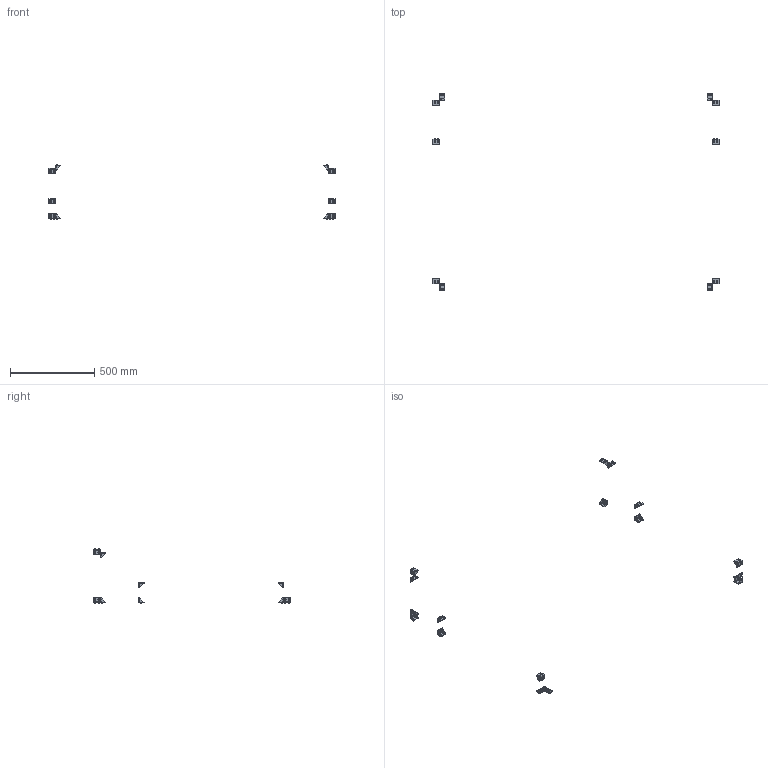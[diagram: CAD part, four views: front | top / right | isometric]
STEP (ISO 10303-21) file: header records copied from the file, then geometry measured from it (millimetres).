
FILE_DESCRIPTION(/* description */ (''),/* implementation_level */ '2;1');
FILE_NAME(/* name */ '1.frame-bottom#1.4#HBLFSD5',/* time_stamp */ '2014-12-01T20:11:07+01:00',/* author */ (''),/* organization */ (''),/* preprocessor_version */ 'ST-DEVELOPER v14',/* originating_system */ '',/* authorisation */ '');
FILE_SCHEMA (('AUTOMOTIVE_DESIGN'));
Products named in the file (2): Document; angle bracket, semi, double
Assembly tree (8 placements, depth 2):
  Document
    angle bracket, semi, double  x8
Bounding box: 1700 x 1170 x 322 mm (x, y, z)
Volume: 181944.4 mm3; surface area: 117188.9 mm2
Topology: 17 solids, 17 shells, 2057 faces, 5763 edges, 3842 vertices
Faces by surface type: plane 1360, bspline 697
Entity records: 78375 total; most frequent: CARTESIAN_POINT 35471, B_SPLINE_CURVE_WITH_KNOTS 6910, ORIENTED_EDGE 6780, PCURVE 6780, DEFINITIONAL_REPRESENTATION 6780, SURFACE_CURVE 3390, EDGE_CURVE 3390, VERTEX_POINT 2260
